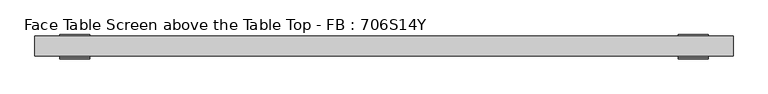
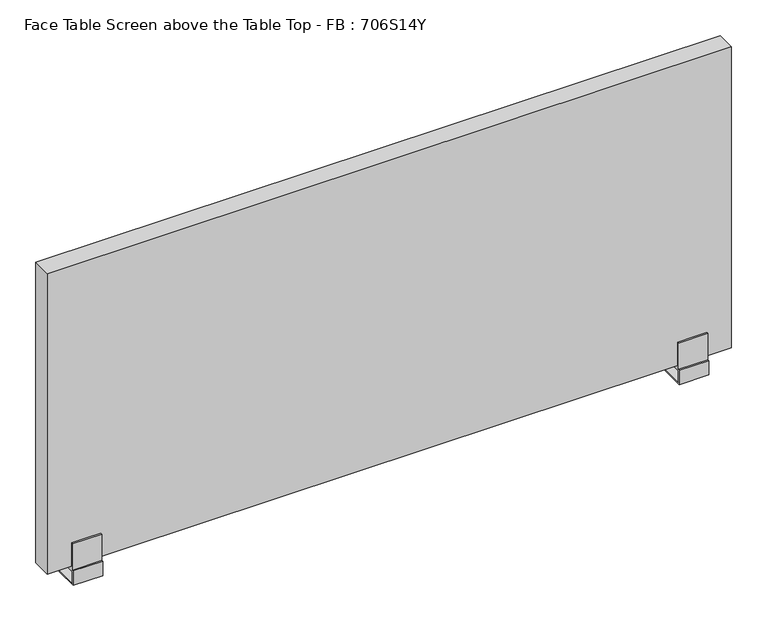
"""IFC4 building model written with IfcOpenShell, lengths in millimetres: furniture geometry, Face Table Screen above the Table Top - FB : 706S14Y."""

import ifcopenshell
import ifcopenshell.guid

model = None  # the IFC model being written
_history = None  # IfcOwnerHistory: only IFC2X3 demands one
_inside = {}  # id of a spatial element -> (the spatial element, [elements in it])
_under = {}  # id of a project, library or spatial element -> (it, [spatial elements below it])
_declared = {}  # id of a project -> (the project, [libraries it declares])
_typed = {}  # id of a type object -> (the type object, [elements of that type])
_made_of = {}  # id of a material, layer set ... -> (it, [elements and type objects made of it])


def new_model(schema):
    """Start an empty IFC model of exactly this schema.

    Asked for "IFC4X3", IfcOpenShell would pick the latest addendum, in which some entities
    have other attributes; the version numbers below select the first issue.
    IFC2X3 requires an IfcOwnerHistory on every rooted entity: one is made here for all.
    """
    global model, _history
    if schema == "IFC4X3":
        model = ifcopenshell.file(schema_version=(4, 3, 0, 0))
    else:
        model = ifcopenshell.file(schema=schema)
    _inside.clear()
    _under.clear()
    _declared.clear()
    _typed.clear()
    _made_of.clear()
    _history = None
    if model.schema == "IFC2X3":
        org = make("IfcOrganization", Name="unknown")
        user = make(
            "IfcPersonAndOrganization",
            ThePerson=make("IfcPerson", FamilyName="unknown"),
            TheOrganization=org,
        )
        app = make(
            "IfcApplication",
            ApplicationDeveloper=org,
            Version="unknown",
            ApplicationFullName="unknown",
            ApplicationIdentifier="unknown",
        )
        _history = make(
            "IfcOwnerHistory",
            OwningUser=user,
            OwningApplication=app,
            ChangeAction="ADDED",
            CreationDate=0,
        )
    return model


def make(cls, **values):
    """One entity of the class cls with the attributes given. An attribute that is None is left unset."""
    return model.create_entity(
        cls, **{name: value for name, value in values.items() if value is not None}
    )


def rooted(cls, **values):
    """An entity with a GlobalId (a new one), such as an element, a storey or a relation."""
    return make(cls, GlobalId=ifcopenshell.guid.new(), OwnerHistory=_history, **values)


def si_unit(unit_type, name, prefix=None):
    """IfcSIUnit, for example si_unit("LENGTHUNIT", "METRE", prefix="MILLI")."""
    return make("IfcSIUnit", UnitType=unit_type, Prefix=prefix, Name=name)


def assignment(units):
    """IfcUnitAssignment: the units of a project."""
    return None if units is None else make("IfcUnitAssignment", Units=units)


def point(xyz):
    """IfcCartesianPoint."""
    return None if xyz is None else make("IfcCartesianPoint", Coordinates=xyz)


def direction(xyz):
    """IfcDirection."""
    return None if xyz is None else make("IfcDirection", DirectionRatios=xyz)


def frame(location, z_axis=None, x_axis=None):
    """IfcAxis2Placement3D, a coordinate frame: its origin and axes. An axis left out is left unset."""
    return make(
        "IfcAxis2Placement3D",
        Location=point(location),
        Axis=direction(z_axis),
        RefDirection=direction(x_axis),
    )


def origin():
    """The frame at (0, 0, 0) with its axes left unset."""
    return frame((0.0, 0.0, 0.0))


def place(relative_to, where):
    """IfcLocalPlacement: puts the frame where relative to a parent placement (None: the world)."""
    return make(
        "IfcLocalPlacement", PlacementRelTo=relative_to, RelativePlacement=where
    )


def context(
    kind, dimensions, precision=None, world=None, true_north=None, identifier=None
):
    """IfcGeometricRepresentationContext, for example the 3D "Model" context."""
    return make(
        "IfcGeometricRepresentationContext",
        ContextIdentifier=identifier,
        ContextType=kind,
        CoordinateSpaceDimension=dimensions,
        Precision=precision,
        WorldCoordinateSystem=world,
        TrueNorth=true_north,
    )


def project(units=None, contexts=None):
    """IfcProject with its units and contexts."""
    return rooted(
        "IfcProject",
        Name="project",
        RepresentationContexts=contexts,
        UnitsInContext=assignment(units),
    )


def spatial(cls, under=None, at=None, **own):
    """A site, building, storey or space (cls), placed at a placement, below another one or the project."""
    s = rooted(cls, ObjectPlacement=at, **own)
    if under is not None:
        _under.setdefault(under.id(), (under, []))[1].append(s)
    return s


def polyline(points):
    """IfcPolyline through the points."""
    return make("IfcPolyline", Points=[point(p) for p in points])


def circle_curve(where, radius):
    """IfcCircle in the frame where."""
    return make("IfcCircle", Position=where, Radius=radius)


def outline(outer, holes=None, kind="AREA"):
    """IfcArbitraryClosedProfileDef: a profile drawn as a closed curve; with holes, ...WithVoids."""
    if holes is None:
        return make("IfcArbitraryClosedProfileDef", ProfileType=kind, OuterCurve=outer)
    return make(
        "IfcArbitraryProfileDefWithVoids",
        ProfileType=kind,
        OuterCurve=outer,
        InnerCurves=holes,
    )


def extrude(swept, where, along, depth):
    """IfcExtrudedAreaSolid: the profile swept, set in the frame where, extruded along a direction by depth."""
    return make(
        "IfcExtrudedAreaSolid",
        SweptArea=swept,
        Position=where,
        ExtrudedDirection=direction(along),
        Depth=depth,
    )


def shape(context_of_items, identifier, shape_type, items):
    """IfcShapeRepresentation: the items that make up one representation, for example the "Body"."""
    return make(
        "IfcShapeRepresentation",
        ContextOfItems=context_of_items,
        RepresentationIdentifier=identifier,
        RepresentationType=shape_type,
        Items=items,
    )


def source(mapping_origin, context_of_items, identifier, shape_type, items):
    """IfcRepresentationMap: a shape defined once, which mapped items show again and again."""
    return make(
        "IfcRepresentationMap",
        MappingOrigin=mapping_origin,
        MappedRepresentation=shape(context_of_items, identifier, shape_type, items),
    )


def transform(
    local_origin,
    x_axis=None,
    y_axis=None,
    z_axis=None,
    scale=None,
    scale2=None,
    scale3=None,
    uniform=True,
):
    """IfcCartesianTransformationOperator3D, or its non-uniform kind. x_axis, y_axis, z_axis: its Axis1, 2, 3."""
    if uniform:
        return make(
            "IfcCartesianTransformationOperator3D",
            Axis1=direction(x_axis),
            Axis2=direction(y_axis),
            LocalOrigin=point(local_origin),
            Scale=scale,
            Axis3=direction(z_axis),
        )
    return make(
        "IfcCartesianTransformationOperator3DnonUniform",
        Axis1=direction(x_axis),
        Axis2=direction(y_axis),
        LocalOrigin=point(local_origin),
        Scale=scale,
        Axis3=direction(z_axis),
        Scale2=scale2,
        Scale3=scale3,
    )


def mapped(mapping_source, mapping_target):
    """IfcMappedItem: shows the shape of a source again, moved by a transform."""
    return make(
        "IfcMappedItem", MappingSource=mapping_source, MappingTarget=mapping_target
    )


def made_of(thing, what):
    """Note that an element or type object is made of a material, layer set ...; save() writes the relation."""
    if what is not None:
        _made_of.setdefault(what.id(), (what, []))[1].append(thing)
    return thing


def element(
    cls,
    number,
    at=None,
    inside=None,
    cuts=None,
    type_object=None,
    material=None,
    context=None,
    identifier="Body",
    shape_type=None,
    held_by="IfcProductDefinitionShape",
    body=None,
    shapes=None,
    **own,
):
    """One element of the class cls, such as IfcWall. Its Tag is "e" and its number.

    at: its placement. inside: the storey or other place that contains it. cuts: it is an
    opening in that element (IfcRelVoidsElement). A single representation is given by context,
    identifier, shape_type and body (its items); several are given by shapes. held_by: the class
    of the entity that holds the representations. save() writes the other relations.
    """
    e = rooted(cls, Tag="e%d" % number, ObjectPlacement=at, **own)
    if body is not None:
        shapes = [shape(context, identifier, shape_type, body)]
    if shapes is not None:
        e.Representation = make(held_by, Representations=shapes)
    if inside is not None:
        _inside.setdefault(inside.id(), (inside, []))[1].append(e)
    if cuts is not None:
        rooted(
            "IfcRelVoidsElement", RelatingBuildingElement=cuts, RelatedOpeningElement=e
        )
    if type_object is not None:
        _typed.setdefault(type_object.id(), (type_object, []))[1].append(e)
    return made_of(e, material)


def aggregate(whole, parts):
    """IfcRelAggregates: a whole, such as a stair, and the parts it consists of."""
    return rooted("IfcRelAggregates", RelatingObject=whole, RelatedObjects=parts)


def save(model, path):
    """Write the relations noted so far, then the file.

    IfcRelAggregates (storeys below a building ...), IfcRelContainedInSpatialStructure (elements
    in a storey), IfcRelDefinesByType, IfcRelAssociatesMaterial and IfcRelDeclares: one each for
    every whole, place, type object, material and project.
    """
    for whole, parts in _under.values():
        aggregate(whole, parts)
    for where, things in _inside.values():
        rooted(
            "IfcRelContainedInSpatialStructure",
            RelatedElements=things,
            RelatingStructure=where,
        )
    for kind, things in _typed.values():
        rooted("IfcRelDefinesByType", RelatedObjects=things, RelatingType=kind)
    for what, things in _made_of.values():
        rooted("IfcRelAssociatesMaterial", RelatedObjects=things, RelatingMaterial=what)
    for by, libraries in _declared.values():
        rooted("IfcRelDeclares", RelatingContext=by, RelatedDefinitions=libraries)
    model.write(path)


def plane_surface(at):
    """IfcPlane: the flat surface through the origin of the frame at, square to its z axis."""
    return make("IfcPlane", Position=at)


def cylinder_surface(at, radius):
    """IfcCylindricalSurface: all points at the distance radius from the z axis of the frame at."""
    return make("IfcCylindricalSurface", Position=at, Radius=radius)


def advanced_brep(points, edges, surfaces, faces):
    """IfcAdvancedBrep: a solid bounded by faces that lie on surfaces and meet in shared edges.

    An edge is (start, end): straight between two places in points (the first is 0);
    or (start, end, curve); or (start, end, curve, False) where it runs against its curve.
    A face is (place in surfaces, loops), or (place, loops, False) where it looks against
    its surface's normal. A loop lists edges by number (the first is 1), with a minus sign
    where the edge is run from its end to its start. The first loop is the outer one.
    """
    corners = [point(p) for p in points]
    vertices = [make("IfcVertexPoint", VertexGeometry=c) for c in corners]
    made = []
    for start, end, *more in edges:
        made.append(
            make(
                "IfcEdgeCurve",
                EdgeStart=vertices[start],
                EdgeEnd=vertices[end],
                EdgeGeometry=more[0] if more else make("IfcPolyline", Points=[corners[start], corners[end]]),
                SameSense=more[1] if len(more) > 1 else True,
            )
        )
    hull = []
    for where, loops, *sense in faces:
        bounds = []
        for j, loop in enumerate(loops):
            ring = [make("IfcOrientedEdge", EdgeElement=made[abs(k) - 1], Orientation=k > 0) for k in loop]
            bounds.append(
                make(
                    "IfcFaceOuterBound" if j == 0 else "IfcFaceBound",
                    Bound=make("IfcEdgeLoop", EdgeList=ring),
                    Orientation=True,
                )
            )
        hull.append(make("IfcAdvancedFace", Bounds=bounds, FaceSurface=surfaces[where], SameSense=sense[0] if sense else True))
    return make("IfcAdvancedBrep", Outer=make("IfcClosedShell", CfsFaces=hull))


def face_table_screen_above_the_table_top_fb_706s14y_2d3ba80d(model_context):
    return source(origin(), model_context, "Body", "SolidModel", [
        advanced_brep(
        [(-625.0, 20.0, -39.4406633), (-615.0, 20.0, -39.4406633), (-615.0, 20.0, -28.0), (-625.0, 20.0, -28.0), (-650.0, 43.0, -25.0), (-650.0, -3.0, -25.0), (-590.0, -3.0, -25.0), (-590.0, 43.0, -25.0), (-650.0, -3.0, 0.0), (-650.0, 43.0, -28.0), (-650.0, -6.0, -28.0), (-650.0, -6.0, 3.0), (-650.0, -3.0, 3.0), (-650.0, -3.0, 60.0), (-650.0, 0.0, 60.0), (-650.0, 0.0, 10.0), (-650.0, 40.0, 10.0), (-650.0, 40.0, 60.0), (-650.0, 43.0, 60.0), (-650.0, 43.0, 0.0), (-590.0, -3.0, 0.0), (-590.0, 43.0, 0.0), (-590.0, 43.0, 60.0), (-590.0, 40.0, 60.0), (-590.0, 40.0, 10.0), (-590.0, 0.0, 10.0), (-590.0, 0.0, 60.0), (-590.0, -3.0, 60.0), (-590.0, -3.0, 3.0), (-590.0, -6.0, 3.0), (-590.0, -6.0, -28.0), (-590.0, 43.0, -28.0)],
        [
            (0, 1, circle_curve(frame((-620.0, 20.0, -39.4406633), z_axis=(0.0, 0.0, -1.0), x_axis=(1.0, 0.0, 0.0)), 5.0)),
            (1, 0, circle_curve(frame((-620.0, 20.0, -39.4406633), z_axis=(0.0, 0.0, -1.0), x_axis=(1.0, 0.0, 0.0)), 5.0)),
            (1, 2),
            (2, 3, circle_curve(frame((-620.0, 20.0, -28.0), z_axis=(0.0, 0.0, -1.0), x_axis=(1.0, 0.0, 0.0)), 5.0)),
            (3, 0),
            (3, 2, circle_curve(frame((-620.0, 20.0, -28.0), z_axis=(0.0, 0.0, -1.0), x_axis=(1.0, 0.0, 0.0)), 5.0)),
            (4, 5),
            (5, 6),
            (6, 7),
            (7, 4),
            (8, 5),
            (4, 9),
            (9, 10),
            (10, 11),
            (11, 12),
            (12, 13),
            (13, 14),
            (14, 15),
            (15, 16),
            (16, 17),
            (17, 18),
            (18, 19),
            (19, 8),
            (20, 21),
            (21, 22),
            (22, 23),
            (23, 24),
            (24, 25),
            (25, 26),
            (26, 27),
            (27, 28),
            (28, 29),
            (29, 30),
            (30, 31),
            (31, 7),
            (6, 20),
            (19, 21),
            (20, 8),
            (18, 22),
            (17, 23),
            (16, 24),
            (15, 25),
            (14, 26),
            (13, 27),
            (12, 28),
            (11, 29),
            (10, 30),
            (9, 31),
        ],
        [
            plane_surface(frame((-615.0, 20.0, -39.4406633), z_axis=(0.0, 0.0, -1.0), x_axis=(0.0, -1.0, 0.0))),
            cylinder_surface(frame((-620.0, 20.0, -39.4406633), z_axis=(0.0, 0.0, 1.0), x_axis=(1.0, 0.0, 0.0)), 5.0),
            plane_surface(frame((-615.0, 20.0, -25.0), z_axis=(0.0, 0.0, 1.0), x_axis=(0.0, 1.0, 0.0))),
            plane_surface(frame((-650.0, 43.0, 0.0), z_axis=(-1.0, 0.0, 0.0), x_axis=(0.0, -1.0, 0.0))),
            plane_surface(frame((-590.0, 43.0, 0.0), z_axis=(1.0, 0.0, 0.0), x_axis=(0.0, 1.0, 0.0))),
            plane_surface(frame((-590.0, -3.0, 0.0), z_axis=(0.0, 0.0, -1.0), x_axis=(-1.0, 0.0, 0.0))),
            plane_surface(frame((-590.0, 43.0, 0.0), z_axis=(0.0, 1.0, 0.0), x_axis=(-1.0, 0.0, 0.0))),
            plane_surface(frame((-590.0, 43.0, 60.0), z_axis=(0.0, 0.0, 1.0), x_axis=(-1.0, 0.0, 0.0))),
            plane_surface(frame((-590.0, 40.0, 60.0), z_axis=(0.0, -1.0, 0.0), x_axis=(-1.0, 0.0, 0.0))),
            plane_surface(frame((-590.0, 40.0, 10.0), z_axis=(0.0, 0.0, 1.0), x_axis=(-1.0, 0.0, 0.0))),
            plane_surface(frame((-590.0, 0.0, 10.0), z_axis=(0.0, 1.0, 0.0), x_axis=(-1.0, 0.0, 0.0))),
            plane_surface(frame((-590.0, 0.0, 60.0), z_axis=(0.0, 0.0, 1.0), x_axis=(-1.0, 0.0, 0.0))),
            plane_surface(frame((-590.0, -3.0, 60.0), z_axis=(0.0, -1.0, 0.0), x_axis=(-1.0, 0.0, 0.0))),
            plane_surface(frame((-590.0, -3.0, 3.0), z_axis=(0.0, 0.0, 1.0), x_axis=(-1.0, 0.0, 0.0))),
            plane_surface(frame((-590.0, -6.0, 3.0), z_axis=(0.0, -1.0, 0.0), x_axis=(-1.0, 0.0, 0.0))),
            plane_surface(frame((-590.0, -6.0, -28.0), z_axis=(0.0, 0.0, -1.0), x_axis=(-1.0, 0.0, 0.0))),
            plane_surface(frame((-590.0, 43.0, -28.0), z_axis=(0.0, 1.0, 0.0), x_axis=(-1.0, 0.0, 0.0))),
            plane_surface(frame((-590.0, -3.0, -25.0), z_axis=(0.0, 1.0, 0.0), x_axis=(-1.0, 0.0, 0.0))),
        ],
        [
            (0, [[1, 2]]),
            (1, [[-2, 3, 4, 5]]),
            (1, [[-1, -5, 6, -3]]),
            (2, [[7, 8, 9, 10]]),
            (3, [[11, -7, 12, 13, 14, 15, 16, 17, 18, 19, 20, 21, 22, 23]]),
            (4, [[24, 25, 26, 27, 28, 29, 30, 31, 32, 33, 34, 35, -9, 36]]),
            (5, [[-23, 37, -24, 38]]),
            (6, [[-22, 39, -25, -37]]),
            (7, [[-21, 40, -26, -39]]),
            (8, [[-20, 41, -27, -40]]),
            (9, [[-19, 42, -28, -41]]),
            (10, [[-18, 43, -29, -42]]),
            (11, [[-17, 44, -30, -43]]),
            (12, [[-16, 45, -31, -44]]),
            (13, [[-15, 46, -32, -45]]),
            (14, [[-14, 47, -33, -46]]),
            (15, [[-13, 48, -34, -47], [-4, -6]]),
            (16, [[-12, -10, -35, -48]]),
            (17, [[-11, -38, -36, -8]]),
        ],
    ),
        advanced_brep(
        [(615.0, 20.0, -39.4406633), (625.0, 20.0, -39.4406633), (625.0, 20.0, -28.0), (615.0, 20.0, -28.0), (590.0, 43.0, -25.0), (590.0, -3.0, -25.0), (650.0, -3.0, -25.0), (650.0, 43.0, -25.0), (590.0, -3.0, 0.0), (590.0, 43.0, -28.0), (590.0, -6.0, -28.0), (590.0, -6.0, 3.0), (590.0, -3.0, 3.0), (590.0, -3.0, 60.0), (590.0, 0.0, 60.0), (590.0, 0.0, 10.0), (590.0, 40.0, 10.0), (590.0, 40.0, 60.0), (590.0, 43.0, 60.0), (590.0, 43.0, 0.0), (650.0, -3.0, 0.0), (650.0, 43.0, 0.0), (650.0, 43.0, 60.0), (650.0, 40.0, 60.0), (650.0, 40.0, 10.0), (650.0, 0.0, 10.0), (650.0, 0.0, 60.0), (650.0, -3.0, 60.0), (650.0, -3.0, 3.0), (650.0, -6.0, 3.0), (650.0, -6.0, -28.0), (650.0, 43.0, -28.0)],
        [
            (0, 1, circle_curve(frame((620.0, 20.0, -39.4406633), z_axis=(0.0, 0.0, -1.0), x_axis=(1.0, 0.0, 0.0)), 5.0)),
            (1, 0, circle_curve(frame((620.0, 20.0, -39.4406633), z_axis=(0.0, 0.0, -1.0), x_axis=(1.0, 0.0, 0.0)), 5.0)),
            (1, 2),
            (2, 3, circle_curve(frame((620.0, 20.0, -28.0), z_axis=(0.0, 0.0, -1.0), x_axis=(1.0, 0.0, 0.0)), 5.0)),
            (3, 0),
            (3, 2, circle_curve(frame((620.0, 20.0, -28.0), z_axis=(0.0, 0.0, -1.0), x_axis=(1.0, 0.0, 0.0)), 5.0)),
            (4, 5),
            (5, 6),
            (6, 7),
            (7, 4),
            (8, 5),
            (4, 9),
            (9, 10),
            (10, 11),
            (11, 12),
            (12, 13),
            (13, 14),
            (14, 15),
            (15, 16),
            (16, 17),
            (17, 18),
            (18, 19),
            (19, 8),
            (20, 21),
            (21, 22),
            (22, 23),
            (23, 24),
            (24, 25),
            (25, 26),
            (26, 27),
            (27, 28),
            (28, 29),
            (29, 30),
            (30, 31),
            (31, 7),
            (6, 20),
            (19, 21),
            (20, 8),
            (18, 22),
            (17, 23),
            (16, 24),
            (15, 25),
            (14, 26),
            (13, 27),
            (12, 28),
            (11, 29),
            (10, 30),
            (9, 31),
        ],
        [
            plane_surface(frame((625.0, 20.0, -39.4406633), z_axis=(0.0, 0.0, -1.0), x_axis=(0.0, -1.0, 0.0))),
            cylinder_surface(frame((620.0, 20.0, -39.4406633), z_axis=(0.0, 0.0, 1.0), x_axis=(1.0, 0.0, 0.0)), 5.0),
            plane_surface(frame((625.0, 20.0, -25.0), z_axis=(0.0, 0.0, 1.0), x_axis=(0.0, 1.0, 0.0))),
            plane_surface(frame((590.0, 43.0, 0.0), z_axis=(-1.0, 0.0, 0.0), x_axis=(0.0, -1.0, 0.0))),
            plane_surface(frame((650.0, 43.0, 0.0), z_axis=(1.0, 0.0, 0.0), x_axis=(0.0, 1.0, 0.0))),
            plane_surface(frame((650.0, -3.0, 0.0), z_axis=(0.0, 0.0, -1.0), x_axis=(-1.0, 0.0, 0.0))),
            plane_surface(frame((650.0, 43.0, 0.0), z_axis=(0.0, 1.0, 0.0), x_axis=(-1.0, 0.0, 0.0))),
            plane_surface(frame((650.0, 43.0, 60.0), z_axis=(0.0, 0.0, 1.0), x_axis=(-1.0, 0.0, 0.0))),
            plane_surface(frame((650.0, 40.0, 60.0), z_axis=(0.0, -1.0, 0.0), x_axis=(-1.0, 0.0, 0.0))),
            plane_surface(frame((650.0, 40.0, 10.0), z_axis=(0.0, 0.0, 1.0), x_axis=(-1.0, 0.0, 0.0))),
            plane_surface(frame((650.0, 0.0, 10.0), z_axis=(0.0, 1.0, 0.0), x_axis=(-1.0, 0.0, 0.0))),
            plane_surface(frame((650.0, 0.0, 60.0), z_axis=(0.0, 0.0, 1.0), x_axis=(-1.0, 0.0, 0.0))),
            plane_surface(frame((650.0, -3.0, 60.0), z_axis=(0.0, -1.0, 0.0), x_axis=(-1.0, 0.0, 0.0))),
            plane_surface(frame((650.0, -3.0, 3.0), z_axis=(0.0, 0.0, 1.0), x_axis=(-1.0, 0.0, 0.0))),
            plane_surface(frame((650.0, -6.0, 3.0), z_axis=(0.0, -1.0, 0.0), x_axis=(-1.0, 0.0, 0.0))),
            plane_surface(frame((650.0, -6.0, -28.0), z_axis=(0.0, 0.0, -1.0), x_axis=(-1.0, 0.0, 0.0))),
            plane_surface(frame((650.0, 43.0, -28.0), z_axis=(0.0, 1.0, 0.0), x_axis=(-1.0, 0.0, 0.0))),
            plane_surface(frame((650.0, -3.0, -25.0), z_axis=(0.0, 1.0, 0.0), x_axis=(-1.0, 0.0, 0.0))),
        ],
        [
            (0, [[1, 2]]),
            (1, [[-2, 3, 4, 5]]),
            (1, [[-1, -5, 6, -3]]),
            (2, [[7, 8, 9, 10]]),
            (3, [[11, -7, 12, 13, 14, 15, 16, 17, 18, 19, 20, 21, 22, 23]]),
            (4, [[24, 25, 26, 27, 28, 29, 30, 31, 32, 33, 34, 35, -9, 36]]),
            (5, [[-23, 37, -24, 38]]),
            (6, [[-22, 39, -25, -37]]),
            (7, [[-21, 40, -26, -39]]),
            (8, [[-20, 41, -27, -40]]),
            (9, [[-19, 42, -28, -41]]),
            (10, [[-18, 43, -29, -42]]),
            (11, [[-17, 44, -30, -43]]),
            (12, [[-16, 45, -31, -44]]),
            (13, [[-15, 46, -32, -45]]),
            (14, [[-14, 47, -33, -46]]),
            (15, [[-13, 48, -34, -47], [-4, -6]]),
            (16, [[-12, -10, -35, -48]]),
            (17, [[-11, -38, -36, -8]]),
        ],
    ),
        extrude(outline(polyline([(700.0, 0.0), (-700.0, 0.0), (-700.0, 40.0), (700.0, 40.0), (700.0, 0.0)])), frame((0.0, 0.0, 10.0), z_axis=(0.0, 0.0, 1.0), x_axis=(1.0, 0.0, 0.0)), (0.0, 0.0, 1.0), 650.0),
    ])


if __name__ == "__main__":
    model = new_model("IFC4")
    model_context = context("Model", 3, world=origin())
    ifc_project = project(units=[si_unit("LENGTHUNIT", "METRE", prefix="MILLI")], contexts=[model_context])
    site = spatial("IfcSite", under=ifc_project)
    building = spatial("IfcBuilding", under=site)
    placement = place(None, origin())
    face_table_screen_above_the_table_top_fb_706s14y_shape = face_table_screen_above_the_table_top_fb_706s14y_2d3ba80d(model_context)
    element("IfcFurniture", 1, ObjectType="Face Table Screen above the Table Top - FB : 706S14Y", at=placement, inside=building, context=model_context, shape_type="MappedRepresentation", body=[
        mapped(face_table_screen_above_the_table_top_fb_706s14y_shape, transform((0.0, 0.0, 0.0), x_axis=(1.0, 0.0, 0.0), y_axis=(0.0, 1.0, 0.0), z_axis=(0.0, 0.0, 1.0))),
    ])
    save(model, "model.ifc")
